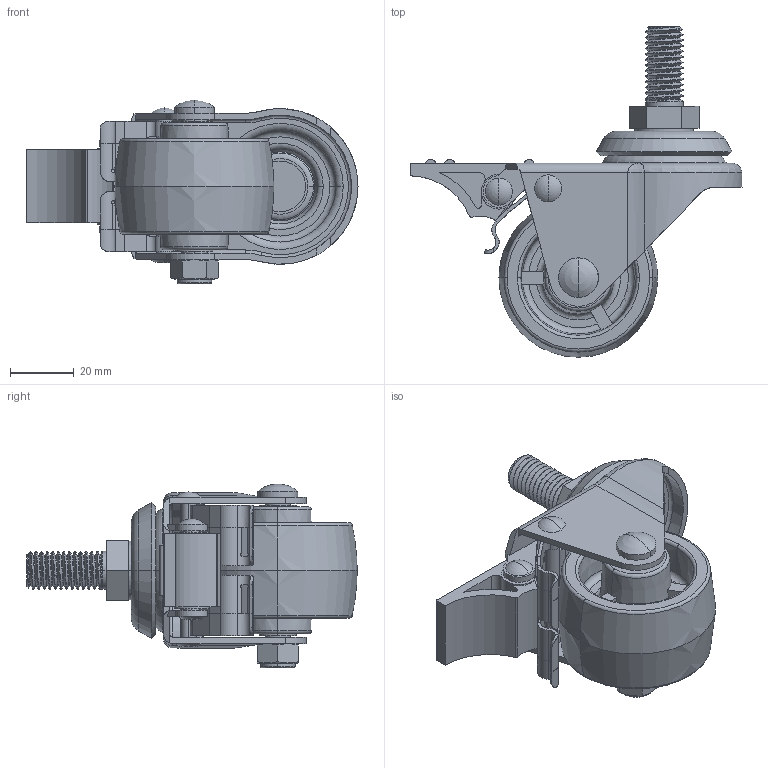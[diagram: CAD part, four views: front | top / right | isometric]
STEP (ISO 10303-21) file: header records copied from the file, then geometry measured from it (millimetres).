
FILE_DESCRIPTION((''),'2;1');
FILE_NAME('3142-04_ASM','2023-01-03T',('lenovo'),(''),'PRO/ENGINEER BY PARAMETRIC TECHNOLOGY CORPORATION, 2010280','PRO/ENGINEER BY PARAMETRIC TECHNOLOGY CORPORATION, 2010280','');
FILE_SCHEMA(('CONFIG_CONTROL_DESIGN'));
Length unit declared in the file: millimetre
Products named in the file (12): 310-12; 310-03; 360-23-M12X25; 310-32; 500-32A; 310-64; XX2-13A; 540-33A; 550-54A; 310-804; 310-34; 3142-04_ASM
Assembly tree (11 placements, depth 2):
  3142-04_ASM
    310-12
    310-03
    360-23-M12X25
    310-32
    500-32A
    310-64
    XX2-13A
    540-33A
    550-54A
    310-804
    310-34
Bounding box: 104.5 x 104 x 57.89 mm (x, y, z)
Volume: 82607.8 mm3; surface area: 49859.1 mm2
Topology: 13 solids, 13 shells, 611 faces, 1498 edges, 920 vertices
Faces by surface type: plane 263, cylinder 187, bspline 57, torus 53, cone 45, sphere 6
Entity records: 23948 total; most frequent: CARTESIAN_POINT 9588, ORIENTED_EDGE 2976, DIRECTION 2910, EDGE_CURVE 1488, AXIS2_PLACEMENT_3D 1085, VERTEX_POINT 920, VECTOR 740, LINE 740
